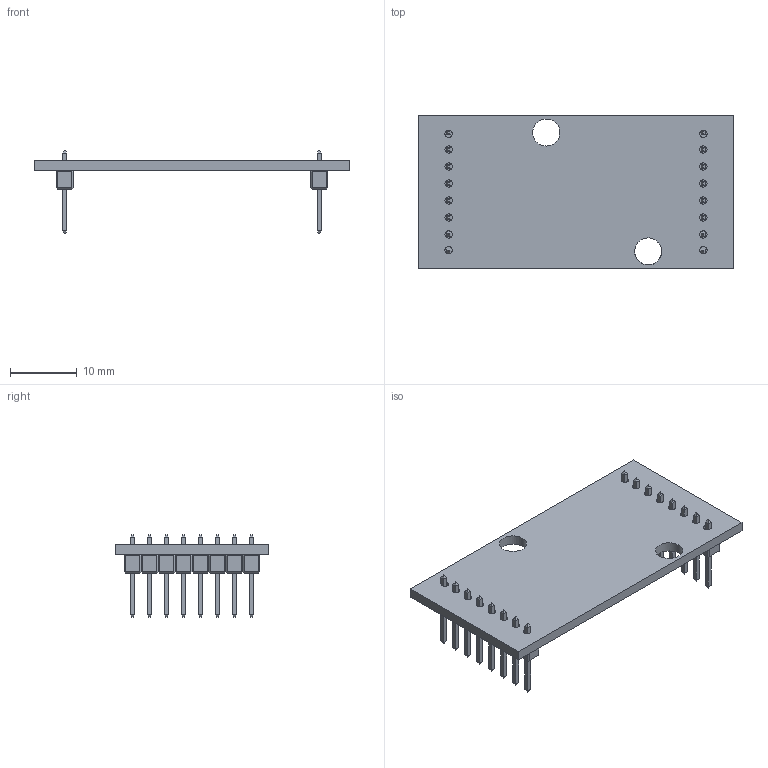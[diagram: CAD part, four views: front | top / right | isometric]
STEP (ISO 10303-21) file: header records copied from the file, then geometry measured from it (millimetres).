
FILE_DESCRIPTION(/* description */ (''),/* implementation_level */ '2;1');
FILE_NAME(/* name */ 'MC3002P.stp',/* time_stamp */ '2012-04-04T10:06:21+02:00',/* author */ ('DR. FRITZ FAULHABER GmbH & Co. KG'),/* organization */ ('DR. FRITZ FAULHABER GmbH & Co. KG'),/* preprocessor_version */ 'ST-DEVELOPER v11',/* originating_system */ 'SIEMENS PLM Software NX 7.5',/* authorisation */ '');
FILE_SCHEMA (('AUTOMOTIVE_DESIGN { 1 0 10303 214 1 1 1 1 }'));
Length unit declared in the file: millimetre
Products named in the file (1): MC3002P
Bounding box: 47.24 x 23 x 12.4 mm (x, y, z)
Volume: 1902.5 mm3; surface area: 3127.9 mm2
Topology: 1 solids, 1 shells, 708 faces, 1461 edges, 787 vertices
Faces by surface type: plane 686, cylinder 22
Full cylindrical faces by diameter (mm): 1.1 x12, 4.05 x2
Entity records: 22495 total; most frequent: CARTESIAN_POINT 2929, DIRECTION 2902, ORIENTED_EDGE 2880, EDGE_CURVE 1440, LINE 1396, VECTOR 1396, EDGE_LOOP 786, VERTEX_POINT 780
